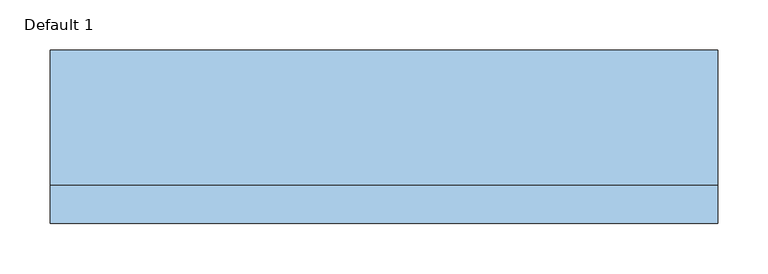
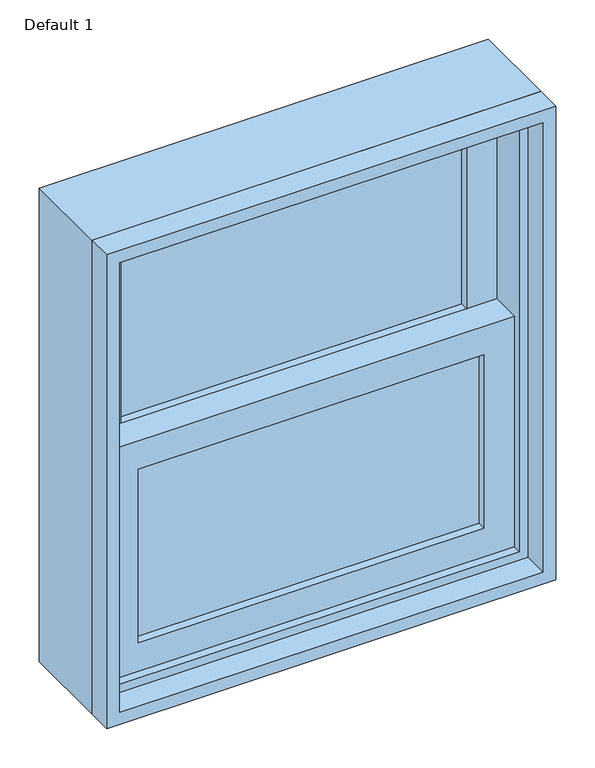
"""IFC4 building model written with IfcOpenShell, lengths in millimetres: window geometry, Planitar-Double-Hung-Single : Default 1."""

from ifc_helpers import new_model, si_unit, frame, origin, place, context, project, spatial, polyline, outline, extrude, source, transform, mapped, element, save


def default_1_9b383e01(model_context):
    return source(origin(), model_context, "Body", "SweptSolid", [
        extrude(outline(polyline([(254.0, 6.35), (254.0, 0.0), (-254.0, 0.0), (-254.0, 6.35), (254.0, 6.35)])), frame((0.0, 0.0, 990.6), z_axis=(0.0, 0.0, 1.0), x_axis=(1.0, 0.0, 0.0)), (0.0, 0.0, 1.0), 269.875),
        extrude(outline(polyline([(-254.0, -6.35), (254.0, -6.35), (254.0, -12.7), (-254.0, -12.7), (-254.0, -6.35)])), frame((0.0, 0.0, 990.6), z_axis=(0.0, 0.0, 1.0), x_axis=(1.0, 0.0, 0.0)), (0.0, 0.0, 1.0), 269.875),
        extrude(outline(polyline([(254.0, 50.8), (254.0, 44.45), (-254.0, 44.45), (-254.0, 50.8), (254.0, 50.8)])), frame((0.0, 0.0, 1304.925), z_axis=(0.0, 0.0, 1.0), x_axis=(1.0, 0.0, 0.0)), (0.0, 0.0, 1.0), 269.875),
        extrude(outline(polyline([(-254.0, 38.1), (254.0, 38.1), (254.0, 31.75), (-254.0, 31.75), (-254.0, 38.1)])), frame((0.0, 0.0, 1304.925), z_axis=(0.0, 0.0, 1.0), x_axis=(1.0, 0.0, 0.0)), (0.0, 0.0, 1.0), 269.875),
        extrude(outline(polyline([(1304.925, -298.45), (946.15, -298.45), (946.15, 298.45), (1304.925, 298.45), (1304.925, -298.45)]), holes=[polyline([(1260.475, 254.0), (990.6, 254.0), (990.6, -254.0), (1260.475, -254.0), (1260.475, 254.0)])]), frame((0.0, -25.4, 0.0), z_axis=(0.0, 1.0, 0.0), x_axis=(0.0, 0.0, 1.0)), (0.0, 0.0, 1.0), 44.45),
        extrude(outline(polyline([(1619.25, -298.45), (1260.475, -298.45), (1260.475, 298.45), (1619.25, 298.45), (1619.25, -298.45)]), holes=[polyline([(1574.8, 254.0), (1304.925, 254.0), (1304.925, -254.0), (1574.8, -254.0), (1574.8, 254.0)])]), frame((0.0, 19.05, 0.0), z_axis=(0.0, 1.0, 0.0), x_axis=(0.0, 0.0, 1.0)), (0.0, 0.0, 1.0), 44.45),
        extrude(outline(polyline([(1651.0, -330.2), (914.4, -330.2), (914.4, 330.2), (1651.0, 330.2), (1651.0, -330.2)]), holes=[polyline([(1619.25, 298.45), (946.15, 298.45), (946.15, -298.45), (1619.25, -298.45), (1619.25, 298.45)])]), frame((0.0, -38.1, 0.0), z_axis=(0.0, 1.0, 0.0), x_axis=(0.0, 0.0, 1.0)), (0.0, 0.0, 1.0), 133.35),
        extrude(outline(polyline([(1651.0, 330.2), (1651.0, -330.2), (914.4, -330.2), (914.4, 330.2), (1651.0, 330.2)]), holes=[polyline([(1631.95, 311.15), (933.45, 311.15), (933.45, -311.15), (1631.95, -311.15), (1631.95, 311.15)])]), frame((0.0, -76.2, 0.0), z_axis=(0.0, 1.0, 0.0), x_axis=(0.0, 0.0, 1.0)), (0.0, 0.0, 1.0), 38.1),
    ])


if __name__ == "__main__":
    model = new_model("IFC4")
    model_context = context("Model", 3, world=origin())
    ifc_project = project(units=[si_unit("LENGTHUNIT", "METRE", prefix="MILLI")], contexts=[model_context])
    site = spatial("IfcSite", under=ifc_project)
    building = spatial("IfcBuilding", under=site)
    placement = place(None, origin())
    default_1_shape = default_1_9b383e01(model_context)
    element("IfcWindow", 1, ObjectType="Planitar-Double-Hung-Single : Default 1", at=placement, inside=building, context=model_context, shape_type="MappedRepresentation", body=[
        mapped(default_1_shape, transform((0.0, 0.0, 0.0), x_axis=(1.0, 0.0, 0.0), y_axis=(0.0, 1.0, 0.0), z_axis=(0.0, 0.0, 1.0))),
    ])
    save(model, "model.ifc")
